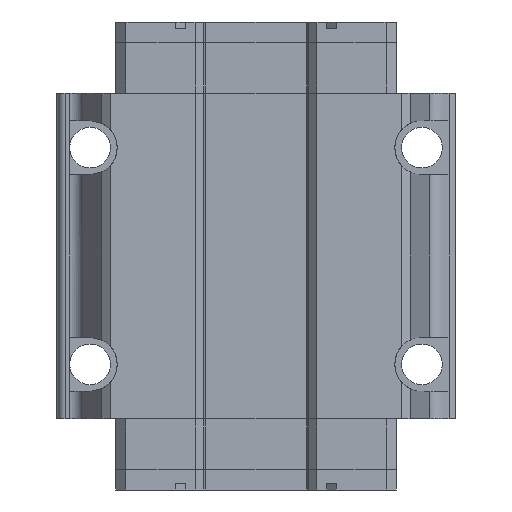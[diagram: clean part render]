
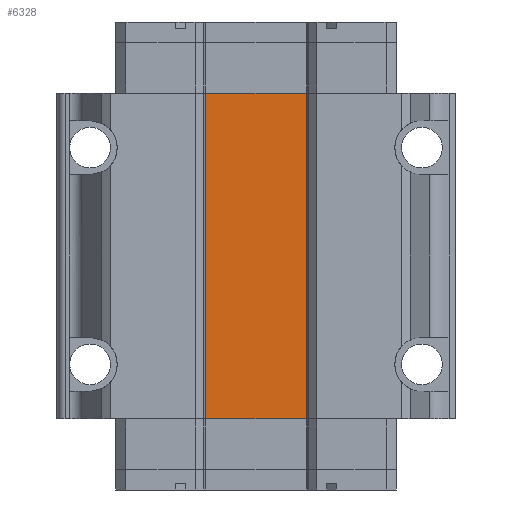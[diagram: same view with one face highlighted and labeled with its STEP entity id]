
A CAD part, front view. The second image highlights one B-rep face of the part: STEP entity #6328.
In plain terms, the highlighted planar face has unit normal (0, -1, 0).
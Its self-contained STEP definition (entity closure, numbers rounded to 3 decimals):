
#303=PLANE('',#6883);
#618=FACE_OUTER_BOUND('',#975,.T.);
#975=EDGE_LOOP('',(#5707,#5708,#5709,#5710));
#1590=LINE('',#10866,#2243);
#1591=LINE('',#10869,#2244);
#1592=LINE('',#10871,#2245);
#1593=LINE('',#10872,#2246);
#2243=VECTOR('',#8532,1.);
#2244=VECTOR('',#8535,10.);
#2245=VECTOR('',#8536,10.);
#2246=VECTOR('',#8537,1.);
#3108=VERTEX_POINT('',#10862);
#3109=VERTEX_POINT('',#10864);
#3110=VERTEX_POINT('',#10868);
#3111=VERTEX_POINT('',#10870);
#3997=EDGE_CURVE('',#3108,#3109,#1590,.T.);
#3998=EDGE_CURVE('',#3110,#3108,#1591,.T.);
#3999=EDGE_CURVE('',#3111,#3109,#1592,.T.);
#4000=EDGE_CURVE('',#3110,#3111,#1593,.T.);
#5707=ORIENTED_EDGE('',*,*,#3998,.T.);
#5708=ORIENTED_EDGE('',*,*,#3997,.T.);
#5709=ORIENTED_EDGE('',*,*,#3999,.F.);
#5710=ORIENTED_EDGE('',*,*,#4000,.F.);
#6328=ADVANCED_FACE('',(#618),#303,.T.);
#6883=AXIS2_PLACEMENT_3D('',#10867,#8533,#8534);
#8532=DIRECTION('',(0.,0.,1.));
#8533=DIRECTION('center_axis',(0.,-1.,0.));
#8534=DIRECTION('ref_axis',(1.,0.,0.));
#8535=DIRECTION('',(1.,0.,0.));
#8536=DIRECTION('',(1.,0.,0.));
#8537=DIRECTION('',(0.,0.,1.));
#10862=CARTESIAN_POINT('',(8.334,0.,7.5));
#10864=CARTESIAN_POINT('',(8.334,0.,55.6));
#10866=CARTESIAN_POINT('',(8.334,0.,7.5));
#10867=CARTESIAN_POINT('Origin',(-8.334,0.,7.5));
#10868=CARTESIAN_POINT('',(-8.334,0.,7.5));
#10869=CARTESIAN_POINT('',(-8.334,0.,7.5));
#10870=CARTESIAN_POINT('',(-8.334,0.,55.6));
#10871=CARTESIAN_POINT('',(-8.334,0.,55.6));
#10872=CARTESIAN_POINT('',(-8.334,0.,7.5));
